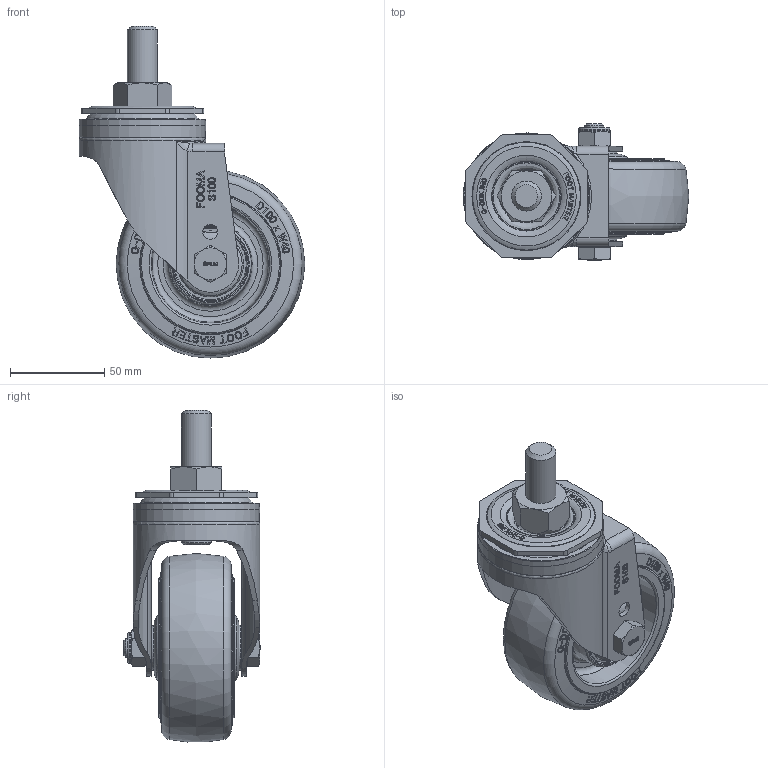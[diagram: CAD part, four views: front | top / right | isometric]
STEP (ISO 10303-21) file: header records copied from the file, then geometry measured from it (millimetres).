
FILE_DESCRIPTION(/* description */ (''),/* implementation_level */ '2;1');
FILE_NAME(/* name */ '\\192.168.10.38\지덕공유\1.기술연구소\2.연구개발 진행중\98.스테인레스캐스터 개발건_2023.10.26\제품설계\3D\홈페이지용\SPLM-100-ASS-HRD.stp',/* time_stamp */ '2025-02-20T14:27:47+09:00',/* author */ ('admin'),/* organization */ ('지덕산업'),/* preprocessor_version */ 'ST-DEVELOPER v18.1',/* originating_system */ 'Autodesk Inventor 2021',/* authorisation */ '');
FILE_SCHEMA (('CONFIG_CONTROL_DESIGN'));
Products named in the file (1): SPLM-100-ASS-HRD
Bounding box: 119.5 x 72.3 x 175.83 mm (x, y, z)
Volume: 368728.3 mm3; surface area: 72708.5 mm2
Topology: 1 solids, 1 shells, 1331 faces, 3577 edges, 2363 vertices
Faces by surface type: plane 632, bspline 464, cylinder 96, cone 95, torus 44
Full cylindrical faces by diameter (mm): 8 x2, 10 x1, 11 x1, 15.875 x1, 16 x2, 16.5 x1, 30 x1, 40.105 x1, 40.971 x1, 54 x1, 67 x1
Entity records: 45195 total; most frequent: CARTESIAN_POINT 16278, ORIENTED_EDGE 7146, DIRECTION 4170, EDGE_CURVE 3573, VERTEX_POINT 2363, LINE 1726, VECTOR 1726, EDGE_LOOP 1456
